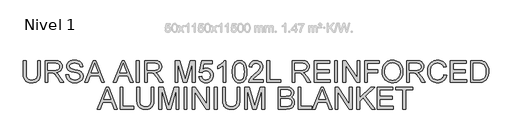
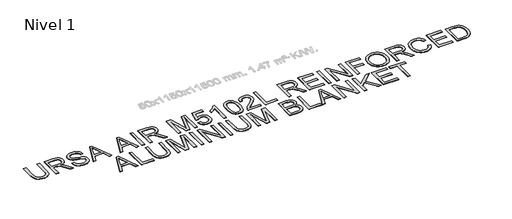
# One storey, part 2 of 5: 1 proxy.
"""IFC4 building model written with IfcOpenShell, lengths in millimetres."""

from ifc_helpers import new_model, si_unit, origin, origin_with_axes, place, context, project, spatial, polyline, outline, extrude, element, save

model = new_model("IFC4")

# Units and contexts
model_context = context("Model", 3, world=origin())
ifc_project = project(units=[si_unit("LENGTHUNIT", "METRE", prefix="MILLI")], contexts=[model_context])

# Site, building, storey
site = spatial("IfcSite", under=ifc_project)
building = spatial("IfcBuilding", under=site)
storey = spatial("IfcBuildingStorey", under=building, Name="Nivel 1", Elevation=0.0)

# Proxy
placement = place(None, origin())
element("IfcBuildingElementProxy", 1, Name="Texto de modelo 2", ObjectType="Texto de modelo 2", at=placement, inside=storey, context=model_context, shape_type="SweptSolid", body=[
    extrude(outline(polyline([(-25020.5286306, -5621.7490961), (-24894.9582429, -5621.7490961), (-24894.9582429, -6201.2858659), (-24897.0888928, -6273.0458476), (-24903.4808425, -6337.0036653), (-24914.1340919, -6393.159319), (-24929.0486412, -6441.5128087), (-24949.5120771, -6483.8958802), (-24976.8119869, -6522.1402793), (-25010.9483703, -6556.246006), (-25051.9212276, -6586.2130602), (-25099.7765438, -6610.6235634), (-25154.5603042, -6628.0596371), (-25216.2725089, -6638.5212813), (-25284.9131578, -6642.0084961), (-25351.8600167, -6638.9734696), (-25412.414926, -6629.8683902), (-25466.5778856, -6614.6932579), (-25514.3488955, -6593.4480727), (-25555.7356199, -6566.4470671), (-25590.7457232, -6534.0044737), (-25619.3792051, -6496.1202924), (-25641.6360658, -6452.7945232), (-25658.3210471, -6402.5403099), (-25670.2388909, -6343.8707958), (-25677.3895972, -6276.7859812), (-25679.773166, -6201.2858659), (-25679.773166, -5621.7490961), (-25554.2027783, -5621.7490961), (-25554.2027783, -6196.8712819), (-25552.6546082, -6257.5794753), (-25548.010098, -6309.7190839), (-25540.2692477, -6353.2901078), (-25529.4320573, -6388.2925467), (-25514.8240764, -6417.2555897), (-25495.7708547, -6442.7084252), (-25472.2723923, -6464.6510534), (-25444.3286891, -6483.0834742), (-25412.4762397, -6497.6761266), (-25377.2515386, -6508.0994498), (-25338.654586, -6514.3534438), (-25296.6853817, -6516.4381084), (-25227.4775813, -6512.3147644), (-25168.9690157, -6499.9447323), (-25121.1596847, -6479.3280121), (-25101.2672323, -6465.927144), (-25084.0495885, -6450.4646039), (-25069.161864, -6432.0705042), (-25056.2591694, -6409.8749571), (-25036.4088701, -6354.0795212), (-25024.4986905, -6283.0782961), (-25020.5286306, -6196.8712819), (-25020.5286306, -5621.7490961)])), origin_with_axes(), (0.0, 0.0, 1.0), 10.0),
    extrude(outline(polyline([(-24675.2100645, -6626.3121976), (-24675.2100645, -5621.7490961), (-24242.3355835, -5621.7490961), (-24180.2018474, -5623.4428862), (-24125.9929025, -5628.5242562), (-24079.708749, -5636.9932063), (-24041.3493868, -5648.8497364), (-24008.6845313, -5665.0058874), (-23979.4838979, -5686.3737), (-23953.7474867, -5712.9531741), (-23931.4752976, -5744.7443099), (-23913.5027293, -5780.0379888), (-23900.6651805, -5817.1250924), (-23892.9626512, -5856.0056208), (-23890.3951414, -5896.6795739), (-23894.648777, -5948.2750237), (-23907.4096837, -5995.6398306), (-23928.6778616, -6038.7739945), (-23958.4533106, -6077.6775155), (-23997.1192411, -6111.1087918), (-24045.0588636, -6137.8262217), (-24102.272178, -6157.8298052), (-24168.7591845, -6171.1195423), (-24127.37246, -6198.1588689), (-24097.3900774, -6224.8303136), (-24045.9479117, -6285.8374111), (-23995.6093921, -6354.0795212), (-23828.1004569, -6626.3121976), (-23974.0269817, -6626.3121976), (-24104.7477173, -6418.0909884), (-24157.0482743, -6338.6284774), (-24199.1707627, -6280.2578675), (-24234.2728364, -6240.0667595), (-24265.5121492, -6215.1427544), (-24295.095993, -6200.519445), (-24325.2316597, -6191.2304247), (-24398.0722948, -6186.8158407), (-24549.6396768, -6186.8158407), (-24549.6396768, -6626.3121976), (-24675.2100645, -6626.3121976)]), holes=[polyline([(-24549.6396768, -6061.245453), (-24268.5778325, -6061.245453), (-24187.8583914, -6056.8002123), (-24125.2264817, -6043.4644899), (-24100.0418935, -6033.2404362), (-24078.0762727, -6020.3492379), (-24059.3296193, -6004.7908952), (-24043.8019334, -5986.565408), (-24031.6235066, -5966.5694887), (-24022.9246302, -5945.6998497), (-24017.7053044, -5923.956491), (-24015.9655291, -5901.3394125), (-24019.2841313, -5869.22638), (-24029.2399378, -5840.0870603), (-24045.8329486, -5813.9214534), (-24069.0631638, -5790.7295593), (-24099.4670778, -5771.7376513), (-24137.5811854, -5758.1720027), (-24183.4054864, -5750.0326135), (-24236.9399809, -5747.3194838), (-24549.6396768, -5747.3194838), (-24549.6396768, -6061.245453)])]), origin_with_axes(), (0.0, 0.0, 1.0), 10.0),
    extrude(outline(polyline([(-23717.7358584, -6280.9936315), (-23592.1654707, -6280.9936315), (-23586.4173145, -6317.5442406), (-23577.7567592, -6350.6766127), (-23566.1838048, -6380.3907481), (-23551.6984512, -6406.6866465), (-23533.5649345, -6430.0931385), (-23511.0474908, -6451.1390543), (-23484.1461199, -6469.8243939), (-23452.8608219, -6486.1491575), (-23418.341228, -6499.4005735), (-23381.7369695, -6508.8658707), (-23343.0480463, -6514.545049), (-23302.2744585, -6516.4381084), (-23232.3155657, -6510.7052806), (-23200.6010721, -6503.5392459), (-23171.0632135, -6493.5067974), (-23144.4300899, -6480.9681527), (-23121.429801, -6466.2835297), (-23102.0623468, -6449.4529284), (-23086.3277273, -6430.4763489), (-23074.1493004, -6410.1738613), (-23065.4504241, -6389.3655359), (-23060.2310983, -6368.0513728), (-23058.491323, -6346.231372), (-23063.7029846, -6304.200854), (-23079.3379694, -6267.872507), (-23092.4897507, -6251.7546771), (-23111.0984483, -6236.8784489), (-23135.1640622, -6223.2438225), (-23164.6865923, -6210.8507977), (-23230.9973219, -6191.1384542), (-23347.5239439, -6162.903511), (-23467.5454448, -6131.173689), (-23511.3463949, -6115.8835935), (-23544.3408113, -6100.9767085), (-23577.8717223, -6080.973125), (-23606.8500937, -6058.7315927), (-23631.2759253, -6034.2521116), (-23651.1492173, -6007.5346817), (-23666.5466116, -5978.8552145), (-23677.5447504, -5948.4896215), (-23684.1436337, -5916.4379027), (-23686.3432615, -5882.700058), (-23683.6224675, -5845.3063861), (-23675.4600858, -5809.1543158), (-23661.8561162, -5774.2438473), (-23642.8105587, -5740.5749806), (-23618.5380112, -5709.5196088), (-23589.2530716, -5682.4496253), (-23554.9557397, -5659.3650301), (-23515.6460157, -5640.2658232), (-23472.6498075, -5625.2976245), (-23427.2930232, -5614.6060541), (-23379.5756627, -5608.1911118), (-23329.4977261, -5606.0527977), (-23274.8672499, -5608.2907465), (-23223.5477115, -5615.0045929), (-23175.5391112, -5626.1943369), (-23130.8414487, -5641.8599785), (-23090.2824588, -5661.863562), (-23054.6898757, -5686.0671316), (-23024.0636996, -5714.4706873), (-22998.4039305, -5747.0742292), (-22977.9098377, -5782.9273953), (-22962.7806906, -5821.0798239), (-22953.0164893, -5861.5315149), (-22948.6172338, -5904.2824684), (-23074.1876215, -5904.2824684), (-23082.5875937, -5864.2139878), (-23097.2415598, -5829.3571687), (-23118.1495199, -5799.7120113), (-23145.3114739, -5775.2785155), (-23179.2332595, -5756.1793085), (-23220.4207146, -5742.5370179), (-23268.873839, -5734.3516435), (-23324.5926329, -5731.6231854), (-23382.089523, -5734.3209867), (-23431.2170978, -5742.4143906), (-23471.9753572, -5755.903397), (-23504.3643012, -5774.7880061), (-23529.0430517, -5797.4893909), (-23546.6707306, -5822.4287245), (-23557.247338, -5849.6060069), (-23560.7728738, -5879.0212381), (-23558.2743419, -5904.3284537), (-23550.7787462, -5927.2750931), (-23538.2860868, -5947.8611564), (-23520.7963636, -5966.0866436), (-23493.2665277, -5983.3464406), (-23449.9177659, -6000.7901785), (-23390.7500783, -6018.4178574), (-23315.763465, -6036.2294774), (-23177.3172075, -6069.8906799), (-23128.6034999, -6085.1117975), (-23093.5627399, -6099.2599259), (-23055.0654219, -6120.7043805), (-23021.979035, -6144.8159796), (-22994.3035791, -6171.5947232), (-22972.0390542, -6201.0406112), (-22954.9248772, -6233.0003595), (-22942.700465, -6267.320684), (-22935.3658178, -6304.0015846), (-22932.9209353, -6343.0430613), (-22935.7336998, -6382.3221285), (-22944.171993, -6420.4515645), (-22958.2358151, -6457.4313692), (-22977.9251661, -6493.2615427), (-23002.8951565, -6526.5548633), (-23032.800897, -6555.9241092), (-23067.6423877, -6581.3692806), (-23107.4196284, -6602.8903773), (-23150.9753238, -6620.0045543), (-23197.1521784, -6632.2289664), (-23245.9501922, -6639.5636137), (-23297.3693652, -6642.0084961), (-23361.6030944, -6639.3720085), (-23420.3952358, -6631.4625456), (-23473.7457893, -6618.2801074), (-23521.654755, -6599.824694), (-23564.4133727, -6576.0656485), (-23602.3128824, -6546.972314), (-23635.3532841, -6512.5446906), (-23663.5345778, -6472.7827783), (-23686.2359625, -6428.974164), (-23702.8366376, -6382.4064348), (-23713.3366029, -6333.0795906), (-23717.7358584, -6280.9936315)])), origin_with_axes(), (0.0, 0.0, 1.0), 10.0),
    extrude(outline(polyline([(-22861.5518283, -6626.3121976), (-22460.5604535, -5621.7490961), (-22353.6294203, -5621.7490961), (-21952.6380455, -6626.3121976), (-22085.3208184, -6626.3121976), (-22200.3452556, -6312.3862284), (-22614.0898728, -6312.3862284), (-22728.8690553, -6626.3121976), (-22861.5518283, -6626.3121976)]), holes=[polyline([(-22567.9819961, -6186.8158407), (-22246.2078777, -6186.8158407), (-22336.7068485, -5939.8443946), (-22407.0949369, -5747.3194838), (-22469.6348761, -5918.2619842), (-22567.9819961, -6186.8158407)])]), origin_with_axes(), (0.0, 0.0, 1.0), 10.0),
    extrude(outline(polyline([(-21543.0627576, -6626.3121976), (-21142.0713828, -5621.7490961), (-21035.1403496, -5621.7490961), (-20634.1489748, -6626.3121976), (-20766.8317477, -6626.3121976), (-20881.8561849, -6312.3862284), (-21295.6008021, -6312.3862284), (-21410.3799846, -6626.3121976), (-21543.0627576, -6626.3121976)]), holes=[polyline([(-21249.4929254, -6186.8158407), (-20927.718807, -6186.8158407), (-21018.2177778, -5939.8443946), (-21088.6058662, -5747.3194838), (-21151.1458054, -5918.2619842), (-21249.4929254, -6186.8158407)])]), origin_with_axes(), (0.0, 0.0, 1.0), 10.0),
    extrude(outline(polyline([(-20484.2983754, -6626.3121976), (-20484.2983754, -5621.7490961), (-20358.7279878, -5621.7490961), (-20358.7279878, -6626.3121976), (-20484.2983754, -6626.3121976)])), origin_with_axes(), (0.0, 0.0, 1.0), 10.0),
    extrude(outline(polyline([(-20107.5872124, -6626.3121976), (-20107.5872124, -5621.7490961), (-19674.7127314, -5621.7490961), (-19612.5789952, -5623.4428862), (-19558.3700504, -5628.5242562), (-19512.0858969, -5636.9932063), (-19473.7265347, -5648.8497364), (-19441.0616792, -5665.0058874), (-19411.8610458, -5686.3737), (-19386.1246346, -5712.9531741), (-19363.8524455, -5744.7443099), (-19345.8798772, -5780.0379888), (-19333.0423284, -5817.1250924), (-19325.3397991, -5856.0056208), (-19322.7722893, -5896.6795739), (-19327.0259249, -5948.2750237), (-19339.7868316, -5995.6398306), (-19361.0550095, -6038.7739945), (-19390.8304584, -6077.6775155), (-19429.496389, -6111.1087918), (-19477.4360115, -6137.8262217), (-19534.6493259, -6157.8298052), (-19601.1363324, -6171.1195423), (-19559.7496079, -6198.1588689), (-19529.7672253, -6224.8303136), (-19478.3250596, -6285.8374111), (-19427.98654, -6354.0795212), (-19260.4776048, -6626.3121976), (-19406.4041296, -6626.3121976), (-19537.1248652, -6418.0909884), (-19589.4254222, -6338.6284774), (-19631.5479106, -6280.2578675), (-19666.6499843, -6240.0667595), (-19697.8892971, -6215.1427544), (-19727.4731409, -6200.519445), (-19757.6088076, -6191.2304247), (-19830.4494427, -6186.8158407), (-19982.0168247, -6186.8158407), (-19982.0168247, -6626.3121976), (-20107.5872124, -6626.3121976)]), holes=[polyline([(-19982.0168247, -6061.245453), (-19700.9549804, -6061.245453), (-19620.2355393, -6056.8002123), (-19557.6036296, -6043.4644899), (-19532.4190413, -6033.2404362), (-19510.4534205, -6020.3492379), (-19491.7067672, -6004.7908952), (-19476.1790813, -5986.565408), (-19464.0006544, -5966.5694887), (-19455.3017781, -5945.6998497), (-19450.0824523, -5923.956491), (-19448.342677, -5901.3394125), (-19451.6612792, -5869.22638), (-19461.6170857, -5840.0870603), (-19478.2100965, -5813.9214534), (-19501.4403117, -5790.7295593), (-19531.8442257, -5771.7376513), (-19569.9583333, -5758.1720027), (-19615.7826343, -5750.0326135), (-19669.3171288, -5747.3194838), (-19982.0168247, -5747.3194838), (-19982.0168247, -6061.245453)])]), origin_with_axes(), (0.0, 0.0, 1.0), 10.0),
    extrude(outline(polyline([(-18710.6166494, -6626.3121976), (-18710.6166494, -5621.7490961), (-18494.5472909, -5621.7490961), (-18289.0238829, -6329.7993095), (-18247.5758448, -6477.6878716), (-18202.6942414, -6317.5365763), (-18000.6043987, -5621.7490961), (-17784.5350402, -5621.7490961), (-17784.5350402, -6626.3121976), (-17910.1054279, -6626.3121976), (-17910.1054279, -5747.3194838), (-18162.4724765, -6626.3121976), (-18332.679213, -6626.3121976), (-18585.0462617, -5747.3194838), (-18585.0462617, -6626.3121976), (-18710.6166494, -6626.3121976)])), origin_with_axes(), (0.0, 0.0, 1.0), 10.0),
    extrude(outline(polyline([(-17611.8757571, -6359.4751238), (-17486.3053694, -6343.7788253), (-17476.9243785, -6384.1462101), (-17463.251431, -6419.1639775), (-17445.2865269, -6448.8321276), (-17423.0296662, -6473.1506603), (-17396.5268342, -6492.0889188), (-17365.824016, -6505.6162464), (-17330.9212117, -6513.7326429), (-17291.8184213, -6516.4381084), (-17243.9937619, -6512.6749822), (-17201.8099598, -6501.3856034), (-17165.267015, -6482.5699722), (-17134.3649274, -6456.2280885), (-17109.7934758, -6423.6628677), (-17092.2424389, -6386.1772253), (-17081.7118168, -6343.7711611), (-17078.2016094, -6296.4446753), (-17081.4895548, -6251.716356), (-17091.3533908, -6211.9544437), (-17107.7931174, -6177.1589384), (-17130.8087347, -6147.3298399), (-17160.4768848, -6123.4021818), (-17196.8742097, -6106.3109974), (-17240.0007094, -6096.0562868), (-17289.856384, -6092.63805), (-17350.771511, -6098.0949662), (-17376.8834685, -6104.9161115), (-17400.0983552, -6114.465715), (-17439.4923855, -6139.5430043), (-17470.609071, -6171.1195423), (-17596.1794586, -6155.4232438), (-17486.3053694, -5637.4453946), (-16999.7201171, -5637.4453946), (-16999.7201171, -5763.0157823), (-17384.7699387, -5763.0157823), (-17438.48071, -6039.6630427), (-17394.166258, -6007.9025637), (-17348.7788169, -5985.2165074), (-17302.3183866, -5971.6048735), (-17254.7849671, -5967.0676623), (-17193.6322496, -5972.6931911), (-17137.4612675, -5989.5697776), (-17086.2720207, -6017.6974219), (-17040.0645093, -6057.0761238), (-17001.812446, -6105.299322), (-16974.4895436, -6159.9604551), (-16958.0958022, -6221.0595231), (-16952.6312217, -6288.5965261), (-16957.5516434, -6353.6503255), (-16972.3129085, -6414.1669137), (-16996.9150169, -6470.1462907), (-17031.3579687, -6521.5884563), (-17056.358616, -6549.8119032), (-17083.5358984, -6574.2722237), (-17112.8898159, -6594.9694181), (-17144.4203686, -6611.9034862), (-17178.1275564, -6625.074428), (-17214.0113793, -6634.4822436), (-17252.0718374, -6640.126933), (-17292.3089306, -6642.0084961), (-17357.1098112, -6637.1723807), (-17415.6413695, -6622.6640345), (-17467.9036054, -6598.4834575), (-17513.896519, -6564.6306498), (-17552.1639108, -6522.791737), (-17581.249581, -6474.6528451), (-17601.1535298, -6420.213974), (-17611.8757571, -6359.4751238)])), origin_with_axes(), (0.0, 0.0, 1.0), 10.0),
    extrude(outline(polyline([(-16371.8681787, -6626.3121976), (-16497.4385664, -6626.3121976), (-16497.4385664, -5843.4593119), (-16549.8617507, -5885.8577118), (-16616.3870782, -5928.1947981), (-16686.2233436, -5965.1975955), (-16748.5793418, -5991.5931286), (-16748.5793418, -5872.8898715), (-16697.6200212, -5847.3374013), (-16649.9563102, -5819.2404139), (-16605.5882088, -5788.5989094), (-16564.5157168, -5755.4128877), (-16527.9651078, -5721.2151906), (-16497.1626549, -5687.5386596), (-16472.1083582, -5654.3832948), (-16452.8022176, -5621.7490961), (-16371.8681787, -5621.7490961), (-16371.8681787, -6626.3121976)])), origin_with_axes(), (0.0, 0.0, 1.0), 10.0),
    extrude(outline(polyline([(-16073.6385079, -6132.1240508), (-16071.3315813, -6047.6568118), (-16064.4108012, -5971.328962), (-16052.8761678, -5903.1405014), (-16036.7276811, -5843.0914299), (-16016.0343189, -5790.6912382), (-15990.865059, -5745.449417), (-15961.2199016, -5707.3659663), (-15927.0988465, -5676.4408861), (-15888.3869307, -5652.513228), (-15844.9691911, -5635.4220436), (-15796.8456276, -5625.167333), (-15744.0162403, -5621.7490961), (-15704.3156416, -5623.7724471), (-15666.6383939, -5629.8425), (-15630.9844972, -5639.9592549), (-15597.3539515, -5654.1227117), (-15566.5591628, -5672.09528), (-15539.4125373, -5693.6393694), (-15515.9140748, -5718.7549797), (-15496.0637755, -5747.4421112), (-15463.3222779, -5815.0710846), (-15437.2026563, -5896.0664372), (-15427.2238572, -5943.6994914), (-15420.0961435, -5998.9201117), (-15414.3939726, -6132.1240508), (-15416.6779066, -6216.0547951), (-15423.5297088, -6291.9994345), (-15434.9493791, -6359.9579689), (-15450.9369174, -6419.9303983), (-15471.4693313, -6472.3535826), (-15496.523628, -6517.6643817), (-15526.0998076, -6555.8627956), (-15560.19787, -6586.9488241), (-15598.955771, -6611.0374306), (-15642.5114664, -6628.2435781), (-15690.8649562, -6638.5672666), (-15744.0162403, -6642.0084961), (-15813.1780553, -6636.0304137), (-15844.8159069, -6628.5578106), (-15874.4917212, -6618.0961664), (-15902.2054982, -6604.645481), (-15927.9572378, -6588.2057543), (-15951.7469402, -6568.7769864), (-15973.5746052, -6546.3591773), (-15997.0270824, -6510.8623969), (-16017.3525627, -6470.7134421), (-16034.5510459, -6425.9123129), (-16048.6225323, -6376.4590092), (-16059.5670216, -6322.3535312), (-16067.384514, -6263.5958788), (-16072.0750095, -6200.186052), (-16073.6385079, -6132.1240508)]), holes=[polyline([(-15948.0681202, -6131.8787961), (-15944.3893003, -6241.040114), (-15933.3528404, -6329.4007707), (-15914.9587407, -6396.9607663), (-15903.0025758, -6422.9405161), (-15889.207001, -6443.7201007), (-15858.0596588, -6475.5342291), (-15823.4787512, -6498.2586065), (-15785.4642784, -6511.8932329), (-15744.0162403, -6516.4381084), (-15702.5682021, -6511.8779045), (-15664.5537293, -6498.1972928), (-15629.9728217, -6475.3962733), (-15598.8254795, -6443.474846), (-15585.0299047, -6422.6454441), (-15573.0737398, -6396.6388695), (-15554.6796401, -6329.0942024), (-15543.6431802, -6240.8408446), (-15539.9643603, -6131.8787961), (-15543.5205529, -6025.6068848), (-15554.1891307, -5938.8020623), (-15571.9700938, -5871.4643288), (-15583.5277199, -5845.0956204), (-15596.8634422, -5823.5936842), (-15627.4896183, -5790.2237215), (-15662.4690647, -5766.3880339), (-15701.8017813, -5752.0866213), (-15745.4877682, -5747.3194838), (-15786.7212085, -5751.5194699), (-15824.0918879, -5764.1194283), (-15857.5998063, -5785.1193588), (-15887.2449637, -5814.5192616), (-15901.500391, -5838.308964), (-15913.8550947, -5866.6358776), (-15932.8623311, -5936.9013387), (-15944.266673, -6025.3156448), (-15948.0681202, -6131.8787961)])]), origin_with_axes(), (0.0, 0.0, 1.0), 10.0),
    extrude(outline(polyline([(-14660.9716465, -6500.7418099), (-14660.9716465, -6626.3121976), (-15320.2161818, -6626.3121976), (-15317.4570668, -6582.1050445), (-15306.7271753, -6539.7373014), (-15293.0388994, -6505.6545674), (-15275.7637741, -6472.0776712), (-15254.9017993, -6439.0066126), (-15230.452975, -6406.4413918), (-15200.9457733, -6373.1097502), (-15164.9086662, -6337.7394292), (-15073.2447357, -6260.8827491), (-14937.7415342, -6140.524023), (-14890.3154136, -6092.162869), (-14856.4396132, -6051.6805212), (-14832.726553, -6015.382831), (-14815.7886528, -5979.5756501), (-14805.6259126, -5944.2589786), (-14802.2383326, -5909.4328164), (-14805.4343074, -5876.6683262), (-14815.0222319, -5846.555652), (-14831.0021061, -5819.0947939), (-14853.3739299, -5794.2857519), (-14880.8961017, -5773.7380096), (-14912.3270197, -5759.0610508), (-14947.6666838, -5750.2548756), (-14986.9150942, -5747.3194838), (-15028.2634976, -5750.1858977), (-15065.2433023, -5758.7851393), (-15097.8545084, -5773.1172087), (-15126.0971157, -5793.1821059), (-15148.9441204, -5818.3053805), (-15165.3685187, -5847.8125822), (-15175.3703104, -5881.703711), (-15178.9494957, -5919.9787669), (-15304.5198833, -5904.2824684), (-15293.7210139, -5839.4585952), (-15274.0776482, -5782.8200964), (-15245.5897862, -5734.3669719), (-15208.2574279, -5694.0992219), (-15162.9389647, -5662.4460418), (-15110.4927877, -5639.8366276), (-15050.9188971, -5626.270979), (-14984.2172929, -5621.7490961), (-14916.9178804, -5626.7768167), (-14857.0220931, -5641.8599785), (-14804.5299309, -5666.9985815), (-14759.4413938, -5702.1926257), (-14723.2280099, -5744.8362804), (-14697.3613071, -5792.3237146), (-14681.8412855, -5844.6549284), (-14676.6679449, -5901.8299218), (-14682.2474885, -5961.8866575), (-14698.9861193, -6020.9010609), (-14728.6925904, -6080.9271398), (-14773.175655, -6144.018902), (-14803.870809, -6179.0060125), (-14844.0849096, -6219.3427405), (-14953.0699506, -6316.0650484), (-15097.5249474, -6436.8529701), (-15128.8562307, -6468.7054195), (-15154.1787747, -6500.7418099), (-14660.9716465, -6500.7418099)])), origin_with_axes(), (0.0, 0.0, 1.0), 10.0),
    extrude(outline(polyline([(-14488.3123634, -6626.3121976), (-14488.3123634, -5621.7490961), (-14362.7419757, -5621.7490961), (-14362.7419757, -6500.7418099), (-13860.4604249, -6500.7418099), (-13860.4604249, -6626.3121976), (-14488.3123634, -6626.3121976)])), origin_with_axes(), (0.0, 0.0, 1.0), 10.0),
    extrude(outline(polyline([(-13326.7862773, -6626.3121976), (-13326.7862773, -5621.7490961), (-12893.9117963, -5621.7490961), (-12831.7780601, -5623.4428862), (-12777.5691153, -5628.5242562), (-12731.2849618, -5636.9932063), (-12692.9255996, -5648.8497364), (-12660.2607441, -5665.0058874), (-12631.0601107, -5686.3737), (-12605.3236995, -5712.9531741), (-12583.0515104, -5744.7443099), (-12565.0789421, -5780.0379888), (-12552.2413933, -5817.1250924), (-12544.538864, -5856.0056208), (-12541.9713542, -5896.6795739), (-12546.2249898, -5948.2750237), (-12558.9858965, -5995.6398306), (-12580.2540744, -6038.7739945), (-12610.0295233, -6077.6775155), (-12648.6954539, -6111.1087918), (-12696.6350764, -6137.8262217), (-12753.8483908, -6157.8298052), (-12820.3353973, -6171.1195423), (-12778.9486728, -6198.1588689), (-12748.9662902, -6224.8303136), (-12697.5241245, -6285.8374111), (-12647.1856049, -6354.0795212), (-12479.6766697, -6626.3121976), (-12625.6031945, -6626.3121976), (-12756.3239301, -6418.0909884), (-12808.6244871, -6338.6284774), (-12850.7469755, -6280.2578675), (-12885.8490492, -6240.0667595), (-12917.088362, -6215.1427544), (-12946.6722058, -6200.519445), (-12976.8078725, -6191.2304247), (-13049.6485076, -6186.8158407), (-13201.2158896, -6186.8158407), (-13201.2158896, -6626.3121976), (-13326.7862773, -6626.3121976)]), holes=[polyline([(-13201.2158896, -6061.245453), (-12920.1540453, -6061.245453), (-12839.4346042, -6056.8002123), (-12776.8026945, -6043.4644899), (-12751.6181062, -6033.2404362), (-12729.6524854, -6020.3492379), (-12710.9058321, -6004.7908952), (-12695.3781462, -5986.565408), (-12683.1997193, -5966.5694887), (-12674.500843, -5945.6998497), (-12669.2815172, -5923.956491), (-12667.5417419, -5901.3394125), (-12670.8603441, -5869.22638), (-12680.8161506, -5840.0870603), (-12697.4091614, -5813.9214534), (-12720.6393766, -5790.7295593), (-12751.0432906, -5771.7376513), (-12789.1573982, -5758.1720027), (-12834.9816992, -5750.0326135), (-12888.5161937, -5747.3194838), (-13201.2158896, -5747.3194838), (-13201.2158896, -6061.245453)])]), origin_with_axes(), (0.0, 0.0, 1.0), 10.0),
    extrude(outline(polyline([(-12322.2231758, -6626.3121976), (-12322.2231758, -5621.7490961), (-11600.1934466, -5621.7490961), (-11600.1934466, -5747.3194838), (-12196.6527881, -5747.3194838), (-12196.6527881, -6045.5491546), (-11631.5860435, -6045.5491546), (-11631.5860435, -6171.1195423), (-12196.6527881, -6171.1195423), (-12196.6527881, -6500.7418099), (-11584.4971481, -6500.7418099), (-11584.4971481, -6626.3121976), (-12322.2231758, -6626.3121976)])), origin_with_axes(), (0.0, 0.0, 1.0), 10.0),
    extrude(outline(polyline([(-11380.4452681, -6626.3121976), (-11380.4452681, -5621.7490961), (-11254.8748804, -5621.7490961), (-11254.8748804, -6626.3121976), (-11380.4452681, -6626.3121976)])), origin_with_axes(), (0.0, 0.0, 1.0), 10.0),
    extrude(outline(polyline([(-11003.7341051, -6626.3121976), (-11003.7341051, -5621.7490961), (-10869.3345495, -5621.7490961), (-10344.4895697, -6417.600479), (-10344.4895697, -5621.7490961), (-10218.919182, -5621.7490961), (-10218.919182, -6626.3121976), (-10353.3187376, -6626.3121976), (-10878.1637174, -5830.2155601), (-10878.1637174, -6626.3121976), (-11003.7341051, -6626.3121976)])), origin_with_axes(), (0.0, 0.0, 1.0), 10.0),
    extrude(outline(polyline([(-9999.1710036, -6626.3121976), (-9999.1710036, -5621.7490961), (-9324.2301698, -5621.7490961), (-9324.2301698, -5747.3194838), (-9873.6006159, -5747.3194838), (-9873.6006159, -6045.5491546), (-9402.7116621, -6045.5491546), (-9402.7116621, -6171.1195423), (-9873.6006159, -6171.1195423), (-9873.6006159, -6626.3121976), (-9999.1710036, -6626.3121976)])), origin_with_axes(), (0.0, 0.0, 1.0), 10.0),
    extrude(outline(polyline([(-9198.6597821, -6137.2743987), (-9196.5674532, -6076.6696721), (-9190.2904667, -6019.4448613), (-9179.8288224, -5965.5999664), (-9165.1825205, -5915.1349873), (-9146.3515609, -5868.049924), (-9123.3359436, -5824.3447766), (-9096.1356685, -5784.0195449), (-9064.7507358, -5747.0742292), (-9030.0586973, -5714.0223312), (-8992.9371047, -5685.3773529), (-8953.3859581, -5661.1392943), (-8911.4052575, -5641.3081555), (-8866.9950029, -5625.8839365), (-8820.1551943, -5614.8666371), (-8770.8858317, -5608.2562575), (-8719.186915, -5606.0527977), (-8651.6039268, -5610.1914701), (-8587.4238471, -5622.6074875), (-8526.6466758, -5643.3008497), (-8469.272413, -5672.2715568), (-8416.9105423, -5708.6458891), (-8371.1705476, -5751.5501268), (-8332.0524288, -5800.9842699), (-8299.5561859, -5856.9483184), (-8274.019044, -5918.1700137), (-8255.7782284, -5983.3770974), (-8244.8337391, -6052.5695693), (-8241.185576, -6125.7474295), (-8245.0253443, -6199.89098), (-8256.5446493, -6270.0184853), (-8275.7434909, -6336.1299455), (-8302.6218691, -6398.2253606), (-8336.5436548, -6454.66459), (-8376.8727185, -6503.8074932), (-8423.6090603, -6545.6540702), (-8476.7526802, -6580.2043209), (-8534.2112493, -6607.2436475), (-8593.8924388, -6626.5574523), (-8655.7962487, -6638.1457351), (-8719.922679, -6642.0084961), (-8788.6859553, -6637.7395321), (-8853.7090979, -6624.9326401), (-8914.992107, -6603.5878202), (-8972.5349824, -6573.7050723), (-9024.8355393, -6536.4416919), (-9070.3915931, -6492.9549744), (-9109.2031436, -6443.2449198), (-9141.2701908, -6387.3115281), (-9166.378137, -6327.4004123), (-9184.3123843, -6265.7571855), (-9195.0729326, -6202.3818476), (-9198.6597821, -6137.2743987)]), holes=[polyline([(-9073.0893944, -6138.500672), (-9071.5201477, -6181.2937787), (-9066.8124078, -6221.7493019), (-9058.9661747, -6259.8672415), (-9047.9814482, -6295.6475976), (-9033.8582285, -6329.0903703), (-9016.5965155, -6360.1955594), (-8996.1963092, -6388.963165), (-8972.6576097, -6415.3931871), (-8946.7506698, -6439.0755905), (-8919.2457425, -6459.6003401), (-8890.1428278, -6476.967436), (-8859.4419257, -6491.1768781), (-8827.1430361, -6502.2286663), (-8793.2461592, -6510.1228008), (-8757.7512948, -6514.8592815), (-8720.658443, -6516.4381084), (-8682.8873088, -6514.8439531), (-8646.8291251, -6510.0614872), (-8612.483892, -6502.0907106), (-8579.8516093, -6490.9316234), (-8548.9322773, -6476.5842256), (-8519.7258958, -6459.0485172), (-8492.2324648, -6438.3244981), (-8466.4519843, -6414.4121684), (-8443.0857295, -6387.5682791), (-8422.8349753, -6358.0495811), (-8405.6997217, -6325.8560744), (-8391.6799688, -6290.987759), (-8380.7757166, -6253.444635), (-8372.9869649, -6213.2267023), (-8368.313714, -6170.3339609), (-8366.7559636, -6124.7664109), (-8369.4231081, -6067.3001775), (-8377.4245415, -6013.6047347), (-8390.7602638, -5963.6800822), (-8409.4302751, -5917.5262203), (-8433.2276416, -5875.7486212), (-8461.9454299, -5838.9527575), (-8495.5836398, -5807.1386291), (-8534.1422714, -5780.3062361), (-8576.4257083, -5759.0074014), (-8621.2383338, -5743.793948), (-8668.5801481, -5734.665876), (-8718.451151, -5731.6231854), (-8788.5173427, -5737.4863047), (-8853.5251569, -5755.0756626), (-8884.1321725, -5768.267681), (-8913.4745937, -5784.391259), (-8968.3656531, -5825.4330941), (-8992.91028, -5850.8456926), (-9014.1822899, -5880.1785335), (-9032.1816829, -5913.431617), (-9046.9084591, -5950.604943), (-9058.3626183, -5991.6985115), (-9066.5441606, -6036.7123225), (-9071.4530859, -6085.646376), (-9073.0893944, -6138.500672)])]), origin_with_axes(), (0.0, 0.0, 1.0), 10.0),
    extrude(outline(polyline([(-8068.5262929, -6626.3121976), (-8068.5262929, -5621.7490961), (-7635.6518119, -5621.7490961), (-7573.5180758, -5623.4428862), (-7519.3091309, -5628.5242562), (-7473.0249774, -5636.9932063), (-7434.6656152, -5648.8497364), (-7402.0007597, -5665.0058874), (-7372.8001263, -5686.3737), (-7347.0637151, -5712.9531741), (-7324.791526, -5744.7443099), (-7306.8189577, -5780.0379888), (-7293.9814089, -5817.1250924), (-7286.2788796, -5856.0056208), (-7283.7113698, -5896.6795739), (-7287.9650054, -5948.2750237), (-7300.7259121, -5995.6398306), (-7321.99409, -6038.7739945), (-7351.7695389, -6077.6775155), (-7390.4354695, -6111.1087918), (-7438.375092, -6137.8262217), (-7495.5884064, -6157.8298052), (-7562.0754129, -6171.1195423), (-7520.6886884, -6198.1588689), (-7490.7063058, -6224.8303136), (-7439.2641401, -6285.8374111), (-7388.9256205, -6354.0795212), (-7221.4166853, -6626.3121976), (-7367.3432101, -6626.3121976), (-7498.0639457, -6418.0909884), (-7550.3645027, -6338.6284774), (-7592.4869911, -6280.2578675), (-7627.5890648, -6240.0667595), (-7658.8283776, -6215.1427544), (-7688.4122214, -6200.519445), (-7718.5478881, -6191.2304247), (-7791.3885232, -6186.8158407), (-7942.9559052, -6186.8158407), (-7942.9559052, -6626.3121976), (-8068.5262929, -6626.3121976)]), holes=[polyline([(-7942.9559052, -6061.245453), (-7661.8940609, -6061.245453), (-7581.1746198, -6056.8002123), (-7518.5427101, -6043.4644899), (-7493.3581218, -6033.2404362), (-7471.392501, -6020.3492379), (-7452.6458477, -6004.7908952), (-7437.1181618, -5986.565408), (-7424.9397349, -5966.5694887), (-7416.2408586, -5945.6998497), (-7411.0215328, -5923.956491), (-7409.2817575, -5901.3394125), (-7412.6003597, -5869.22638), (-7422.5561662, -5840.0870603), (-7439.149177, -5813.9214534), (-7462.3793922, -5790.7295593), (-7492.7833062, -5771.7376513), (-7530.8974138, -5758.1720027), (-7576.7217148, -5750.0326135), (-7630.2562093, -5747.3194838), (-7942.9559052, -5747.3194838), (-7942.9559052, -6061.245453)])]), origin_with_axes(), (0.0, 0.0, 1.0), 10.0),
    extrude(outline(polyline([(-6357.6297607, -6269.2214076), (-6232.059373, -6301.5950232), (-6256.9067361, -6379.6856409), (-6290.0007872, -6447.9200868), (-6331.3415264, -6506.2983609), (-6355.104404, -6531.7914335), (-6380.9289537, -6554.8204632), (-6437.6440946, -6592.9652276), (-6500.3679748, -6620.2114879), (-6569.1005942, -6636.559244), (-6643.8419529, -6642.0084961), (-6720.4150574, -6637.8851521), (-6789.4925662, -6625.51512), (-6851.0744793, -6604.8983998), (-6905.1607968, -6576.0349916), (-6952.4949469, -6539.354091), (-6993.8203576, -6495.2848937), (-7029.1370292, -6443.8273996), (-7058.4449615, -6384.9816088), (-7081.4605788, -6321.2920384), (-7097.9003054, -6255.3032055), (-7107.7641414, -6187.0151101), (-7111.0520868, -6116.4277523), (-7107.3349458, -6040.6900466), (-7096.1835228, -5969.9494046), (-7077.5978178, -5904.2058263), (-7051.5778309, -5843.4593119), (-7018.7060418, -5788.7138725), (-6979.5649303, -5740.9735194), (-6934.1544965, -5700.2382526), (-6882.4747404, -5666.5080722), (-6826.2807657, -5640.0588896), (-6767.3276759, -5621.1666163), (-6705.6154713, -5609.8312523), (-6641.1441516, -5606.0527977), (-6569.3228562, -5610.9425625), (-6503.4643149, -5625.6118571), (-6443.5685276, -5650.0606813), (-6389.6354942, -5684.2890353), (-6342.5542631, -5727.3925424), (-6303.2138822, -5778.4668261), (-6271.6143517, -5837.5118863), (-6247.7556714, -5904.5277231), (-6373.3260591, -5934.448792), (-6393.0997164, -5885.0682984), (-6416.8587619, -5842.8768321), (-6444.6031957, -5807.8743931), (-6476.3330178, -5780.0609814), (-6512.2321691, -5758.8694456), (-6552.4845908, -5743.7326344), (-6597.0902827, -5734.6505476), (-6646.0492449, -5731.6231854), (-6702.3811754, -5734.9801086), (-6753.8999831, -5745.0508782), (-6800.6056681, -5761.8354942), (-6842.4982303, -5785.3339567), (-6879.0488394, -5814.4886048), (-6909.7286649, -5848.2417778), (-6934.537707, -5886.5934758), (-6953.4759655, -5929.5436988), (-6967.4784739, -5975.1457377), (-6977.4802657, -6021.4528839), (-6983.4813407, -6068.4651372), (-6985.4816991, -6116.1824977), (-6983.1134587, -6176.1472629), (-6976.0087377, -6232.1879535), (-6964.167536, -6284.3045694), (-6947.5898536, -6332.4971108), (-6926.0074432, -6375.8075515), (-6899.1520576, -6413.2778656), (-6867.0236966, -6444.908053), (-6829.6223605, -6470.6981137), (-6788.7644664, -6490.7093614), (-6746.2664317, -6505.0031097), (-6702.1282565, -6513.5793587), (-6656.3499407, -6516.4381084), (-6601.7577855, -6512.5446906), (-6551.5342289, -6500.8644373), (-6505.6792711, -6481.3973484), (-6464.1929119, -6454.1434239), (-6428.0561701, -6419.2252912), (-6398.2500643, -6376.7655776), (-6374.7745945, -6326.7642831), (-6357.6297607, -6269.2214076)])), origin_with_axes(), (0.0, 0.0, 1.0), 10.0),
    extrude(outline(polyline([(-6059.4000899, -6626.3121976), (-6059.4000899, -5621.7490961), (-5337.3703607, -5621.7490961), (-5337.3703607, -5747.3194838), (-5933.8297022, -5747.3194838), (-5933.8297022, -6045.5491546), (-5368.7629576, -6045.5491546), (-5368.7629576, -6171.1195423), (-5933.8297022, -6171.1195423), (-5933.8297022, -6500.7418099), (-5321.6740622, -6500.7418099), (-5321.6740622, -6626.3121976), (-6059.4000899, -6626.3121976)])), origin_with_axes(), (0.0, 0.0, 1.0), 10.0),
    extrude(outline(polyline([(-5133.3184807, -6626.3121976), (-5133.3184807, -5621.7490961), (-4786.7736412, -5621.7490961), (-4683.2148596, -5625.3666024), (-4607.4924823, -5636.2191213), (-4565.89116, -5648.1599577), (-4527.4168346, -5664.1168392), (-4492.0695063, -5684.0897659), (-4459.8491749, -5708.0787377), (-4422.6164513, -5744.0085459), (-4390.3807914, -5784.5981927), (-4363.1421954, -5829.8476781), (-4340.9006631, -5879.7570021), (-4323.6255377, -5933.8663122), (-4311.2861625, -5991.7157559), (-4303.8825373, -6053.3053333), (-4301.4146623, -6118.6350443), (-4303.0854597, -6174.1622329), (-4308.0978519, -6226.4551257), (-4316.4518388, -6275.5137226), (-4328.1474206, -6321.3380236), (-4358.6816262, -6402.1187784), (-4376.7998145, -6436.7839922), (-4396.8187264, -6467.6324304), (-4440.7193111, -6519.3505075), (-4488.5439705, -6558.7445378), (-4543.4503583, -6587.9604996), (-4608.5961282, -6609.1443712), (-4684.1039078, -6622.020241), (-4770.0963241, -6626.3121976), (-5133.3184807, -6626.3121976)]), holes=[polyline([(-5007.748093, -6500.7418099), (-4785.5473679, -6500.7418099), (-4693.6381828, -6496.2045987), (-4656.0069204, -6490.5330846), (-4623.9245447, -6482.5929648), (-4571.3174194, -6460.7039861), (-4549.5204112, -6446.9543966), (-4530.7277726, -6431.3347402), (-4507.5588711, -6406.1578161), (-4487.1030993, -6376.9801754), (-4469.3604573, -6343.801818), (-4454.3309449, -6306.6227438), (-4442.3671159, -6265.3663109), (-4433.8215237, -6219.9558771), (-4428.6941684, -6170.3914425), (-4426.98505, -6116.673007), (-4430.334309, -6043.7710583), (-4440.382086, -5979.8209048), (-4457.1283809, -5924.8225465), (-4480.5731939, -5878.7759834), (-4508.8158013, -5840.6388833), (-4539.9554793, -5809.3689137), (-4573.9922281, -5784.9660747), (-4610.9260476, -5767.4303662), (-4642.8398106, -5758.6318552), (-4683.1535459, -5752.3472044), (-4788.9809332, -5747.3194838), (-5007.748093, -5747.3194838), (-5007.748093, -6500.7418099)])]), origin_with_axes(), (0.0, 0.0, 1.0), 10.0),
    extrude(outline(polyline([(-22272.940636, -7846.0603761), (-21871.9492612, -6841.4972746), (-21765.018228, -6841.4972746), (-21364.0268532, -7846.0603761), (-21496.7096262, -7846.0603761), (-21611.7340633, -7532.1344069), (-22025.4786806, -7532.1344069), (-22140.2578631, -7846.0603761), (-22272.940636, -7846.0603761)]), holes=[polyline([(-21979.3708038, -7406.5640192), (-21657.5966854, -7406.5640192), (-21748.0956562, -7159.5925731), (-21818.4837446, -6967.0676623), (-21881.0236838, -7138.0101627), (-21979.3708038, -7406.5640192)])]), origin_with_axes(), (0.0, 0.0, 1.0), 10.0),
    extrude(outline(polyline([(-21229.8725523, -7846.0603761), (-21229.8725523, -6841.4972746), (-21104.3021646, -6841.4972746), (-21104.3021646, -7720.4899884), (-20602.0206139, -7720.4899884), (-20602.0206139, -7846.0603761), (-21229.8725523, -7846.0603761)])), origin_with_axes(), (0.0, 0.0, 1.0), 10.0),
    extrude(outline(polyline([(-19801.5093924, -6841.4972746), (-19675.9390047, -6841.4972746), (-19675.9390047, -7421.0340443), (-19678.0696546, -7492.794026), (-19684.4616043, -7556.7518437), (-19695.1148537, -7612.9074974), (-19710.0294029, -7661.2609872), (-19730.4928389, -7703.6440587), (-19757.7927486, -7741.8884578), (-19791.9291321, -7775.9941844), (-19832.9019893, -7805.9612386), (-19880.7573055, -7830.3717418), (-19935.541066, -7847.8078156), (-19997.2532707, -7858.2694598), (-20065.8939196, -7861.7566745), (-20132.8407785, -7858.7216481), (-20193.3956878, -7849.6165687), (-20247.5586473, -7834.4414364), (-20295.3296572, -7813.1962512), (-20336.7163817, -7786.1952456), (-20371.7264849, -7753.7526521), (-20400.3599669, -7715.8684708), (-20422.6168276, -7672.5427017), (-20439.3018089, -7622.2884883), (-20451.2196527, -7563.6189743), (-20458.370359, -7496.5341596), (-20460.7539277, -7421.0340443), (-20460.7539277, -6841.4972746), (-20335.1835401, -6841.4972746), (-20335.1835401, -7416.6194604), (-20333.63537, -7477.3276538), (-20328.9908598, -7529.4672624), (-20321.2500095, -7573.0382862), (-20310.4128191, -7608.0407252), (-20295.8048382, -7637.0037681), (-20276.7516165, -7662.4566037), (-20253.2531541, -7684.3992318), (-20225.3094508, -7702.8316526), (-20193.4570014, -7717.4243051), (-20158.2323004, -7727.8476283), (-20119.6353477, -7734.1016222), (-20077.6661434, -7736.1862869), (-20008.4583431, -7732.0629428), (-19949.9497774, -7719.6929107), (-19902.1404465, -7699.0761906), (-19882.247994, -7685.6753225), (-19865.0303502, -7670.2127824), (-19850.1426257, -7651.8186826), (-19837.2399312, -7629.6231356), (-19817.3896318, -7573.8276997), (-19805.4794523, -7502.8264746), (-19801.5093924, -7416.6194604), (-19801.5093924, -6841.4972746)])), origin_with_axes(), (0.0, 0.0, 1.0), 10.0),
    extrude(outline(polyline([(-19456.1908263, -7846.0603761), (-19456.1908263, -6841.4972746), (-19240.1214678, -6841.4972746), (-19034.5980598, -7549.547488), (-18993.1500217, -7697.43605), (-18948.2684182, -7537.2847548), (-18746.1785756, -6841.4972746), (-18530.1092171, -6841.4972746), (-18530.1092171, -7846.0603761), (-18655.6796047, -7846.0603761), (-18655.6796047, -6967.0676623), (-18908.0466534, -7846.0603761), (-19078.2533899, -7846.0603761), (-19330.6204386, -6967.0676623), (-19330.6204386, -7846.0603761), (-19456.1908263, -7846.0603761)])), origin_with_axes(), (0.0, 0.0, 1.0), 10.0),
    extrude(outline(polyline([(-18294.6647401, -7846.0603761), (-18294.6647401, -6841.4972746), (-18169.0943525, -6841.4972746), (-18169.0943525, -7846.0603761), (-18294.6647401, -7846.0603761)])), origin_with_axes(), (0.0, 0.0, 1.0), 10.0),
    extrude(outline(polyline([(-17917.9535771, -7846.0603761), (-17917.9535771, -6841.4972746), (-17783.5540215, -6841.4972746), (-17258.7090417, -7637.3486575), (-17258.7090417, -6841.4972746), (-17133.138654, -6841.4972746), (-17133.138654, -7846.0603761), (-17267.5382096, -7846.0603761), (-17792.3831894, -7049.9637385), (-17792.3831894, -7846.0603761), (-17917.9535771, -7846.0603761)])), origin_with_axes(), (0.0, 0.0, 1.0), 10.0),
    extrude(outline(polyline([(-16897.6941771, -7846.0603761), (-16897.6941771, -6841.4972746), (-16772.1237894, -6841.4972746), (-16772.1237894, -7846.0603761), (-16897.6941771, -7846.0603761)])), origin_with_axes(), (0.0, 0.0, 1.0), 10.0),
    extrude(outline(polyline([(-15861.7384787, -6841.4972746), (-15736.168091, -6841.4972746), (-15736.168091, -7421.0340443), (-15738.2987409, -7492.794026), (-15744.6906906, -7556.7518437), (-15755.34394, -7612.9074974), (-15770.2584892, -7661.2609872), (-15790.7219252, -7703.6440587), (-15818.021835, -7741.8884578), (-15852.1582184, -7775.9941844), (-15893.1310756, -7805.9612386), (-15940.9863918, -7830.3717418), (-15995.7701523, -7847.8078156), (-16057.482357, -7858.2694598), (-16126.1230059, -7861.7566745), (-16193.0698648, -7858.7216481), (-16253.6247741, -7849.6165687), (-16307.7877337, -7834.4414364), (-16355.5587436, -7813.1962512), (-16396.945468, -7786.1952456), (-16431.9555712, -7753.7526521), (-16460.5890532, -7715.8684708), (-16482.8459139, -7672.5427017), (-16499.5308952, -7622.2884883), (-16511.448739, -7563.6189743), (-16518.5994453, -7496.5341596), (-16520.9830141, -7421.0340443), (-16520.9830141, -6841.4972746), (-16395.4126264, -6841.4972746), (-16395.4126264, -7416.6194604), (-16393.8644563, -7477.3276538), (-16389.2199461, -7529.4672624), (-16381.4790958, -7573.0382862), (-16370.6419054, -7608.0407252), (-16356.0339245, -7637.0037681), (-16336.9807028, -7662.4566037), (-16313.4822404, -7684.3992318), (-16285.5385372, -7702.8316526), (-16253.6860877, -7717.4243051), (-16218.4613867, -7727.8476283), (-16179.864434, -7734.1016222), (-16137.8952298, -7736.1862869), (-16068.6874294, -7732.0629428), (-16010.1788638, -7719.6929107), (-15962.3695328, -7699.0761906), (-15942.4770803, -7685.6753225), (-15925.2594365, -7670.2127824), (-15910.3717121, -7651.8186826), (-15897.4690175, -7629.6231356), (-15877.6187182, -7573.8276997), (-15865.7085386, -7502.8264746), (-15861.7384787, -7416.6194604), (-15861.7384787, -6841.4972746)])), origin_with_axes(), (0.0, 0.0, 1.0), 10.0),
    extrude(outline(polyline([(-15516.4199126, -7846.0603761), (-15516.4199126, -6841.4972746), (-15300.3505541, -6841.4972746), (-15094.8271461, -7549.547488), (-15053.379108, -7697.43605), (-15008.4975046, -7537.2847548), (-14806.4076619, -6841.4972746), (-14590.3383034, -6841.4972746), (-14590.3383034, -7846.0603761), (-14715.9086911, -7846.0603761), (-14715.9086911, -6967.0676623), (-14968.2757398, -7846.0603761), (-15138.4824762, -7846.0603761), (-15390.8495249, -6967.0676623), (-15390.8495249, -7846.0603761), (-15516.4199126, -7846.0603761)])), origin_with_axes(), (0.0, 0.0, 1.0), 10.0),
    extrude(outline(polyline([(-13978.1826634, -7846.0603761), (-13978.1826634, -6841.4972746), (-13594.8496244, -6841.4972746), (-13539.2457937, -6843.3443488), (-13489.420776, -6848.8855713), (-13445.3745713, -6858.1209422), (-13407.1071796, -6871.0504615), (-13373.6452464, -6887.8120849), (-13344.0154174, -6908.5437682), (-13318.2176925, -6933.2455113), (-13296.2520717, -6961.9173143), (-13278.708699, -6992.9420293), (-13266.1777186, -7024.7025082), (-13258.6591303, -7057.1987511), (-13256.1529342, -7090.430758), (-13258.2605915, -7121.125912), (-13264.5835633, -7150.9166894), (-13275.1218496, -7179.8030902), (-13289.8754504, -7207.7851144), (-13308.8903511, -7233.9890424), (-13332.2125367, -7257.5411543), (-13359.8420074, -7278.4414501), (-13391.7787631, -7296.68993), (-13353.8792534, -7312.8460809), (-13320.6242539, -7333.8460115), (-13292.0137645, -7359.6897216), (-13268.0477854, -7390.3772114), (-13249.1095268, -7424.9734474), (-13235.5821993, -7462.5433961), (-13227.4658028, -7503.0870577), (-13224.7603373, -7546.604432), (-13226.6074115, -7582.2659929), (-13232.148634, -7616.6552953), (-13241.3840049, -7649.772339), (-13254.3135242, -7681.6171242), (-13269.9715016, -7711.0323554), (-13287.392247, -7736.8607372), (-13306.5757602, -7759.1022695), (-13327.5220413, -7777.7569523), (-13350.7215996, -7793.5912065), (-13376.6649445, -7807.3714529), (-13436.7829938, -7828.7699223), (-13509.8382267, -7841.7377626), (-13597.7926804, -7846.0603761), (-13978.1826634, -7846.0603761)]), holes=[polyline([(-13852.6122757, -7249.6010346), (-13623.2991654, -7249.6010346), (-13543.1008904, -7246.9032333), (-13489.3901191, -7238.8098294), (-13464.3051656, -7230.662776), (-13442.5158216, -7220.2011318), (-13424.0220871, -7207.4248967), (-13408.8239622, -7192.3340707), (-13396.9674321, -7175.0359527), (-13388.498482, -7155.6378416), (-13383.4171119, -7134.1397375), (-13381.7233219, -7110.5416404), (-13383.3021488, -7087.9475545), (-13388.0386295, -7066.763683), (-13395.932764, -7046.9900257), (-13406.9845522, -7028.6265828), (-13420.9793965, -7012.3554687), (-13437.7026988, -6998.858798), (-13457.1544593, -6988.1365707), (-13479.3346779, -6980.1887868), (-13543.2235178, -6970.3479434), (-13640.7122465, -6967.0676623), (-13852.6122757, -6967.0676623), (-13852.6122757, -7249.6010346)]), polyline([(-13852.6122757, -7720.4899884), (-13595.0948791, -7720.4899884), (-13538.6863065, -7719.2637151), (-13501.898107, -7715.5848951), (-13458.6413157, -7704.7017194), (-13423.0487327, -7688.2390002), (-13394.1086824, -7664.6638956), (-13370.8094894, -7632.4435642), (-13355.4504161, -7593.0188771), (-13350.330725, -7547.8307053), (-13351.8329098, -7520.6687513), (-13356.3394642, -7495.3462073), (-13363.8503883, -7471.8630733), (-13374.365682, -7450.2193493), (-13388.2455631, -7431.0358361), (-13405.8502494, -7414.9333346), (-13427.1797409, -7401.9118448), (-13452.2340376, -7391.9713667), (-13482.1167855, -7384.621391), (-13517.9316306, -7379.3714084), (-13607.3576123, -7375.1714223), (-13852.6122757, -7375.1714223), (-13852.6122757, -7720.4899884)])]), origin_with_axes(), (0.0, 0.0, 1.0), 10.0),
    extrude(outline(polyline([(-13052.1010542, -7846.0603761), (-13052.1010542, -6841.4972746), (-12926.5306665, -6841.4972746), (-12926.5306665, -7720.4899884), (-12424.2491158, -7720.4899884), (-12424.2491158, -7846.0603761), (-13052.1010542, -7846.0603761)])), origin_with_axes(), (0.0, 0.0, 1.0), 10.0),
    extrude(outline(polyline([(-12399.9689041, -7846.0603761), (-11998.9775294, -6841.4972746), (-11892.0464961, -6841.4972746), (-11491.0551213, -7846.0603761), (-11623.7378943, -7846.0603761), (-11738.7623314, -7532.1344069), (-12152.5069487, -7532.1344069), (-12267.2861312, -7846.0603761), (-12399.9689041, -7846.0603761)]), holes=[polyline([(-12106.3990719, -7406.5640192), (-11784.6249535, -7406.5640192), (-11875.1239243, -7159.5925731), (-11945.5120127, -6967.0676623), (-12008.0519519, -7138.0101627), (-12106.3990719, -7406.5640192)])]), origin_with_axes(), (0.0, 0.0, 1.0), 10.0),
    extrude(outline(polyline([(-11356.9008204, -7846.0603761), (-11356.9008204, -6841.4972746), (-11222.5012649, -6841.4972746), (-10697.6562851, -7637.3486575), (-10697.6562851, -6841.4972746), (-10572.0858974, -6841.4972746), (-10572.0858974, -7846.0603761), (-10706.485453, -7846.0603761), (-11231.3304328, -7049.9637385), (-11231.3304328, -7846.0603761), (-11356.9008204, -7846.0603761)])), origin_with_axes(), (0.0, 0.0, 1.0), 10.0),
    extrude(outline(polyline([(-10352.3377189, -7846.0603761), (-10352.3377189, -6841.4972746), (-10226.7673313, -6841.4972746), (-10226.7673313, -7333.2328748), (-9711.732538, -6841.4972746), (-9536.130199, -6841.4972746), (-9968.5141706, -7254.5061278), (-9520.4339005, -7846.0603761), (-9673.9633198, -7846.0603761), (-10057.5416135, -7339.3642414), (-10226.7673313, -7500.7418099), (-10226.7673313, -7846.0603761), (-10352.3377189, -7846.0603761)])), origin_with_axes(), (0.0, 0.0, 1.0), 10.0),
    extrude(outline(polyline([(-9426.2561098, -7846.0603761), (-9426.2561098, -6841.4972746), (-8704.2263806, -6841.4972746), (-8704.2263806, -6967.0676623), (-9300.6857221, -6967.0676623), (-9300.6857221, -7265.297333), (-8735.6189775, -7265.297333), (-8735.6189775, -7390.8677207), (-9300.6857221, -7390.8677207), (-9300.6857221, -7720.4899884), (-8688.5300821, -7720.4899884), (-8688.5300821, -7846.0603761), (-9426.2561098, -7846.0603761)])), origin_with_axes(), (0.0, 0.0, 1.0), 10.0),
    extrude(outline(polyline([(-8249.0337252, -7846.0603761), (-8249.0337252, -6967.0676623), (-8578.6559929, -6967.0676623), (-8578.6559929, -6841.4972746), (-7793.8410698, -6841.4972746), (-7793.8410698, -6967.0676623), (-8123.4633375, -6967.0676623), (-8123.4633375, -7846.0603761), (-8249.0337252, -7846.0603761)])), origin_with_axes(), (0.0, 0.0, 1.0), 10.0),
])

save(model, "model.ifc")
